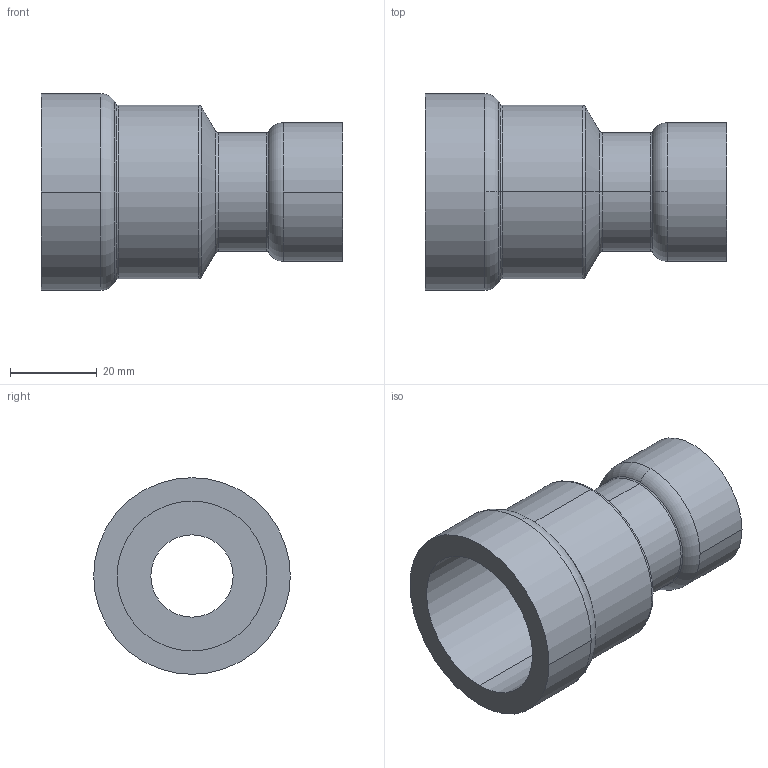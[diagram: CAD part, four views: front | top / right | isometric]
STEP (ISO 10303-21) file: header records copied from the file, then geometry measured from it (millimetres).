
FILE_DESCRIPTION(('Creo Elements/Direct Modeling STEP Export'),'2;1');
FILE_NAME('C9439_1_1-2.stp','2020-07-20T10:00:52',(''),(''),'PTC Creo Elements/Direct Modeling STEP processor for AP214 (Solid Model)','PTC Creo Elements/Direct Modeling 19.0C 15-Aug-2015 (C) Parametric Technology GmbH','');
FILE_SCHEMA(('AUTOMOTIVE_DESIGN { 1 0 10303 214 1 1 1 1 }'));
Length unit declared in the file: millimetre
Products named in the file (2): C9439_1_1-2
Assembly tree (1 placements, depth 2):
  C9439_1_1-2
    C9439_1_1-2
Bounding box: 69.67 x 45.4 x 45.4 mm (x, y, z)
Volume: 29171.3 mm3; surface area: 16756.1 mm2
Topology: 1 solids, 1 shells, 34 faces, 76 edges, 46 vertices
Faces by surface type: cylinder 14, torus 12, cone 4, plane 4
Entity records: 880 total; most frequent: DIRECTION 152, ORIENTED_EDGE 152, CARTESIAN_POINT 131, EDGE_CURVE 76, AXIS2_PLACEMENT_3D 67, VERTEX_POINT 46, EDGE_LOOP 38, FACE_OUTER_BOUND 34
